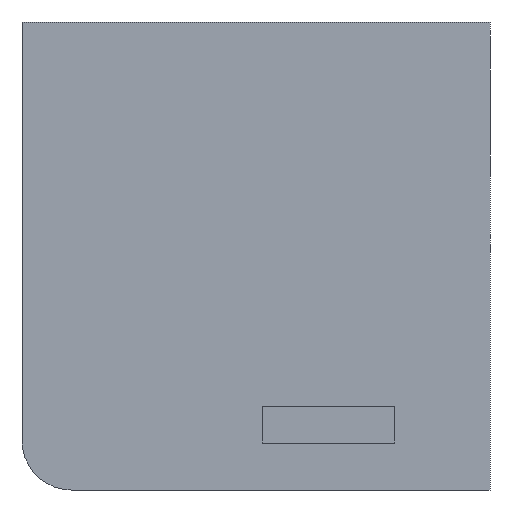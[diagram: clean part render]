
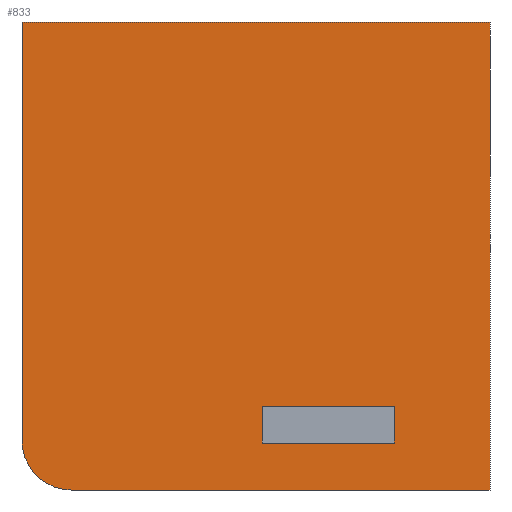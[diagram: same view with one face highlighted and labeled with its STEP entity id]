
A CAD part, left-side view. The second image highlights one B-rep face of the part: STEP entity #833.
In plain terms, the highlighted planar face has unit normal (-1, 0, 0).
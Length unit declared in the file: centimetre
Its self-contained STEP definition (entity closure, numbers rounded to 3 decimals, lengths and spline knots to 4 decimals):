
#11 = VECTOR ( 'NONE', #952, 100. ) ;
#16 = EDGE_LOOP ( 'NONE', ( #1645, #317, #617, #1157 ) ) ;
#39 = VECTOR ( 'NONE', #1892, 100. ) ;
#52 = LINE ( 'NONE', #479, #1277 ) ;
#123 = AXIS2_PLACEMENT_3D ( 'NONE', #1496, #464, #1051 ) ;
#134 = EDGE_CURVE ( 'NONE', #348, #979, #428, .T. ) ;
#135 = DIRECTION ( 'NONE',  ( 0., -1., 0. ) ) ;
#157 = CARTESIAN_POINT ( 'NONE',  ( 0., 1000., 105.1714 ) ) ;
#203 = CARTESIAN_POINT ( 'NONE',  ( 0., 487.0916, 100.3963 ) ) ;
#212 = DIRECTION ( 'NONE',  ( 0., -1., 0. ) ) ;
#265 = VERTEX_POINT ( 'NONE', #203 ) ;
#311 = CARTESIAN_POINT ( 'NONE',  ( 0., 204.3837, 178.1188 ) ) ;
#317 = ORIENTED_EDGE ( 'NONE', *, *, #1281, .F. ) ;
#342 = VECTOR ( 'NONE', #135, 100. ) ;
#348 = VERTEX_POINT ( 'NONE', #767 ) ;
#393 = EDGE_CURVE ( 'NONE', #1061, #753, #1196, .T. ) ;
#411 = ORIENTED_EDGE ( 'NONE', *, *, #1230, .T. ) ;
#428 = LINE ( 'NONE', #1606, #342 ) ;
#448 = CARTESIAN_POINT ( 'NONE',  ( 0., 204.3837, 178.1188 ) ) ;
#455 = EDGE_CURVE ( 'NONE', #1498, #979, #1717, .T. ) ;
#457 = CARTESIAN_POINT ( 'NONE',  ( 0., 1000., 1000. ) ) ;
#464 = DIRECTION ( 'NONE',  ( 1., 0., 0. ) ) ;
#479 = CARTESIAN_POINT ( 'NONE',  ( 0., 204.3837, 100.3963 ) ) ;
#492 = CARTESIAN_POINT ( 'NONE',  ( 0., 487.0916, 178.1188 ) ) ;
#614 = DIRECTION ( 'NONE',  ( 0., 0., -1. ) ) ;
#617 = ORIENTED_EDGE ( 'NONE', *, *, #1711, .F. ) ;
#620 = EDGE_CURVE ( 'NONE', #753, #1147, #1192, .T. ) ;
#630 = CARTESIAN_POINT ( 'NONE',  ( 0., 894.8286, 105.1714 ) ) ;
#631 = CARTESIAN_POINT ( 'NONE',  ( 0., 204.3837, 100.3963 ) ) ;
#675 = ORIENTED_EDGE ( 'NONE', *, *, #1884, .F. ) ;
#713 = LINE ( 'NONE', #1308, #805 ) ;
#753 = VERTEX_POINT ( 'NONE', #448 ) ;
#767 = CARTESIAN_POINT ( 'NONE',  ( 0., 894.8286, 0. ) ) ;
#782 = DIRECTION ( 'NONE',  ( -1., 0., 0. ) ) ;
#790 = EDGE_CURVE ( 'NONE', #1533, #1144, #1790, .T. ) ;
#805 = VECTOR ( 'NONE', #1165, 100. ) ;
#833 = ADVANCED_FACE ( 'NONE', ( #1366, #1067 ), #1191, .F. ) ;
#897 = EDGE_LOOP ( 'NONE', ( #976, #411, #1786, #1007, #675 ) ) ;
#952 = DIRECTION ( 'NONE',  ( 0., 0., -1. ) ) ;
#976 = ORIENTED_EDGE ( 'NONE', *, *, #790, .T. ) ;
#979 = VERTEX_POINT ( 'NONE', #1112 ) ;
#1007 = ORIENTED_EDGE ( 'NONE', *, *, #455, .F. ) ;
#1028 = AXIS2_PLACEMENT_3D ( 'NONE', #630, #782, #1370 ) ;
#1037 = CARTESIAN_POINT ( 'NONE',  ( 0., 0., 1000. ) ) ;
#1047 = DIRECTION ( 'NONE',  ( 0., 0., 1. ) ) ;
#1051 = DIRECTION ( 'NONE',  ( 0., 0., -1. ) ) ;
#1061 = VERTEX_POINT ( 'NONE', #1607 ) ;
#1067 = FACE_OUTER_BOUND ( 'NONE', #897, .T. ) ;
#1086 = CARTESIAN_POINT ( 'NONE',  ( 0., 1000., 1000. ) ) ;
#1112 = CARTESIAN_POINT ( 'NONE',  ( 0., 0., 0. ) ) ;
#1144 = VERTEX_POINT ( 'NONE', #157 ) ;
#1147 = VERTEX_POINT ( 'NONE', #492 ) ;
#1157 = ORIENTED_EDGE ( 'NONE', *, *, #620, .F. ) ;
#1165 = DIRECTION ( 'NONE',  ( 0., -1., 0. ) ) ;
#1191 = PLANE ( 'NONE',  #123 ) ;
#1192 = LINE ( 'NONE', #311, #39 ) ;
#1196 = LINE ( 'NONE', #631, #1691 ) ;
#1230 = EDGE_CURVE ( 'NONE', #1144, #348, #1244, .T. ) ;
#1244 = CIRCLE ( 'NONE', #1028, 105.1714 ) ;
#1257 = LINE ( 'NONE', #1850, #1492 ) ;
#1277 = VECTOR ( 'NONE', #212, 100. ) ;
#1281 = EDGE_CURVE ( 'NONE', #265, #1061, #52, .T. ) ;
#1308 = CARTESIAN_POINT ( 'NONE',  ( 0., 1000., 1000. ) ) ;
#1366 = FACE_BOUND ( 'NONE', #16, .T. ) ;
#1370 = DIRECTION ( 'NONE',  ( 0., 0., -1. ) ) ;
#1492 = VECTOR ( 'NONE', #1578, 100. ) ;
#1496 = CARTESIAN_POINT ( 'NONE',  ( 0., 1000., 1000. ) ) ;
#1498 = VERTEX_POINT ( 'NONE', #1037 ) ;
#1508 = VECTOR ( 'NONE', #614, 100. ) ;
#1533 = VERTEX_POINT ( 'NONE', #1086 ) ;
#1555 = CARTESIAN_POINT ( 'NONE',  ( 0., 0., 1000. ) ) ;
#1578 = DIRECTION ( 'NONE',  ( 0., 0., -1. ) ) ;
#1606 = CARTESIAN_POINT ( 'NONE',  ( 0., 1000., 0. ) ) ;
#1607 = CARTESIAN_POINT ( 'NONE',  ( 0., 204.3837, 100.3963 ) ) ;
#1645 = ORIENTED_EDGE ( 'NONE', *, *, #393, .F. ) ;
#1691 = VECTOR ( 'NONE', #1047, 100. ) ;
#1711 = EDGE_CURVE ( 'NONE', #1147, #265, #1257, .T. ) ;
#1717 = LINE ( 'NONE', #1555, #11 ) ;
#1786 = ORIENTED_EDGE ( 'NONE', *, *, #134, .T. ) ;
#1790 = LINE ( 'NONE', #457, #1508 ) ;
#1850 = CARTESIAN_POINT ( 'NONE',  ( 0., 487.0916, 100.3963 ) ) ;
#1884 = EDGE_CURVE ( 'NONE', #1533, #1498, #713, .T. ) ;
#1892 = DIRECTION ( 'NONE',  ( 0., 1., 0. ) ) ;
